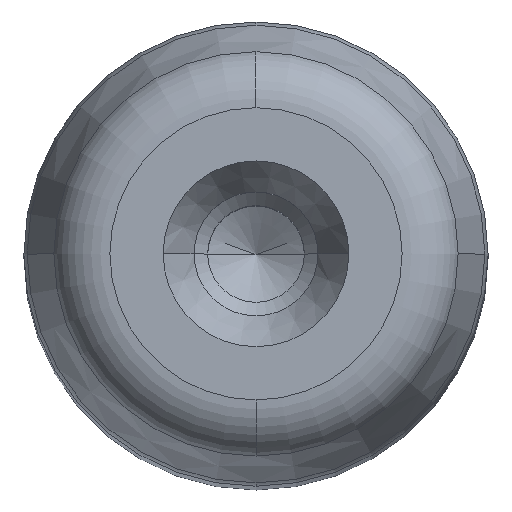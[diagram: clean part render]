
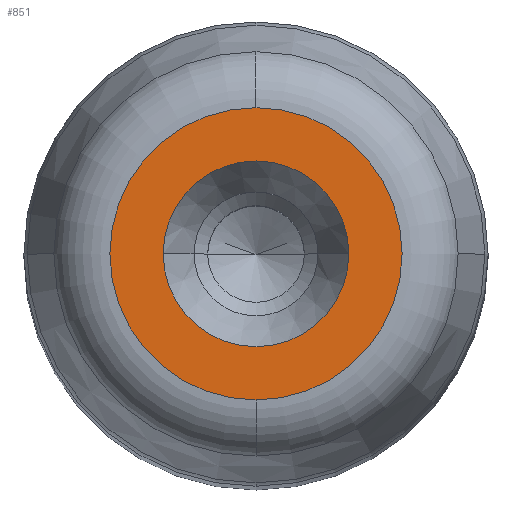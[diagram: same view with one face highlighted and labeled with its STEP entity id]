
A CAD part, top view. The second image highlights one B-rep face of the part: STEP entity #851.
In plain terms, the highlighted planar face has unit normal (0, 0, 1) as drawn and (0, 1, 0) by its records, which use the part's own axes.
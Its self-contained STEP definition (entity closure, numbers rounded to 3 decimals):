
#281=CARTESIAN_POINT('',(4.8,125.0,0.0));
#282=VERTEX_POINT('',#281);
#289=CARTESIAN_POINT('',(-4.8,125.0,0.));
#290=VERTEX_POINT('',#289);
#291=CARTESIAN_POINT('',(0.0,125.0,0.0));
#292=DIRECTION('',(0.0,1.0,0.0));
#293=DIRECTION('',(1.0,0.0,0.0));
#294=AXIS2_PLACEMENT_3D('',#291,#292,#293);
#295=CIRCLE('',#294,4.8);
#296=EDGE_CURVE('',#282,#290,#295,.T.);
#313=CARTESIAN_POINT('',(0.0,125.0,7.554));
#314=VERTEX_POINT('',#313);
#324=CARTESIAN_POINT('',(0.,125.0,-7.554));
#325=VERTEX_POINT('',#324);
#326=CARTESIAN_POINT('',(0.0,125.0,0.0));
#327=DIRECTION('',(0.0,1.0,0.0));
#328=DIRECTION('',(1.0,0.0,0.0));
#329=AXIS2_PLACEMENT_3D('',#326,#327,#328);
#330=CIRCLE('',#329,7.554);
#331=EDGE_CURVE('',#325,#314,#330,.T.);
#812=CARTESIAN_POINT('',(7.554,125.0,0.0));
#813=VERTEX_POINT('',#812);
#814=CARTESIAN_POINT('',(0.0,125.0,0.0));
#815=DIRECTION('',(0.0,1.0,0.0));
#816=DIRECTION('',(1.0,0.0,0.0));
#817=AXIS2_PLACEMENT_3D('',#814,#815,#816);
#818=CIRCLE('',#817,7.554);
#819=EDGE_CURVE('',#813,#325,#818,.T.);
#821=CARTESIAN_POINT('',(0.0,125.0,0.0));
#822=DIRECTION('',(0.0,1.0,0.0));
#823=DIRECTION('',(1.0,0.0,0.0));
#824=AXIS2_PLACEMENT_3D('',#821,#822,#823);
#825=CIRCLE('',#824,7.554);
#826=EDGE_CURVE('',#314,#813,#825,.T.);
#831=CARTESIAN_POINT('',(-8.31,125.0,-8.31));
#832=DIRECTION('',(0.0,1.0,0.0));
#833=DIRECTION('',(0.0,0.0,1.0));
#834=AXIS2_PLACEMENT_3D('',#831,#832,#833);
#835=PLANE('',#834);
#836=ORIENTED_EDGE('',*,*,#819,.T.);
#837=ORIENTED_EDGE('',*,*,#331,.T.);
#838=ORIENTED_EDGE('',*,*,#826,.T.);
#839=EDGE_LOOP('',(#836,#837,#838));
#840=FACE_OUTER_BOUND('',#839,.T.);
#841=ORIENTED_EDGE('',*,*,#296,.F.);
#842=CARTESIAN_POINT('',(0.0,125.0,0.0));
#843=DIRECTION('',(0.0,1.0,0.0));
#844=DIRECTION('',(1.0,0.0,0.0));
#845=AXIS2_PLACEMENT_3D('',#842,#843,#844);
#846=CIRCLE('',#845,4.8);
#847=EDGE_CURVE('',#290,#282,#846,.T.);
#848=ORIENTED_EDGE('',*,*,#847,.F.);
#849=EDGE_LOOP('',(#841,#848));
#850=FACE_BOUND('',#849,.T.);
#851=ADVANCED_FACE('',(#840,#850),#835,.T.);
